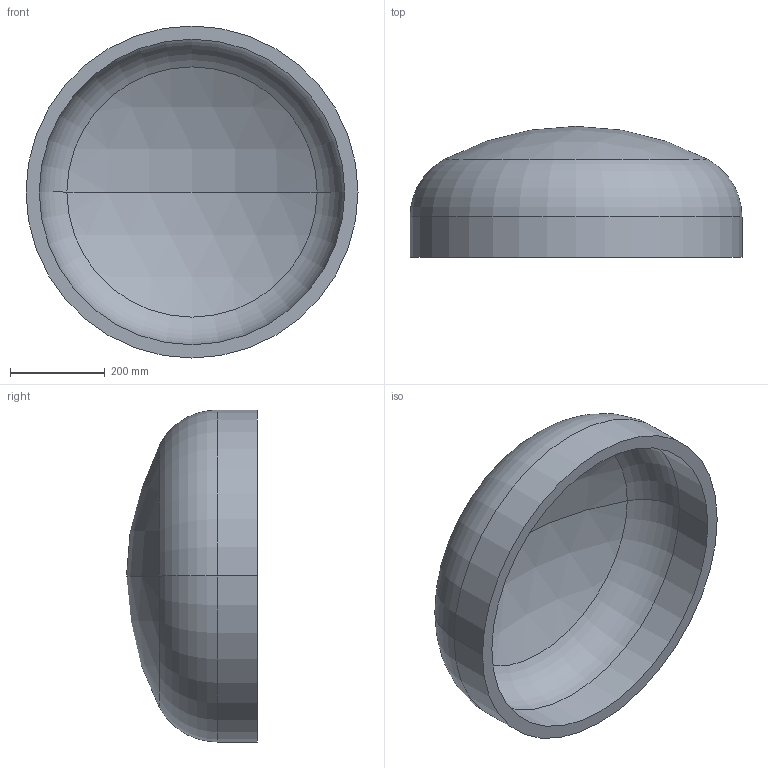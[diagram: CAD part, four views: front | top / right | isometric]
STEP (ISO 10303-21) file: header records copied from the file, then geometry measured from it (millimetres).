
FILE_DESCRIPTION (( 'STEP AP203' ), '1' );
FILE_NAME ('DIN 28013 Korbbogenform_-_Boden DIN 28013 - 700 x 85 - I - s=28.step', '2016-07-01T08:06:11', ( '' ), ( '' ), 'SwSTEP 2.0', 'SolidWorks 2013', '' );
FILE_SCHEMA (( 'CONFIG_CONTROL_DESIGN' ));
Length unit declared in the file: millimetre
Products named in the file (1): DIN 28013 Korbbogenform_-_Boden DIN 28013 - 700 x 85 - I - s=28
Bounding box: 700 x 276.07 x 700 mm (x, y, z)
Volume: 19253586.9 mm3; surface area: 1436010.1 mm2
Topology: 1 solids, 1 shells, 13 faces, 24 edges, 14 vertices
Faces by surface type: torus 4, cylinder 4, sphere 4, plane 1
Entity records: 407 total; most frequent: DIRECTION 72, CARTESIAN_POINT 52, ORIENTED_EDGE 48, AXIS2_PLACEMENT_3D 34, EDGE_CURVE 24, CIRCLE 20, EDGE_LOOP 14, VERTEX_POINT 14
